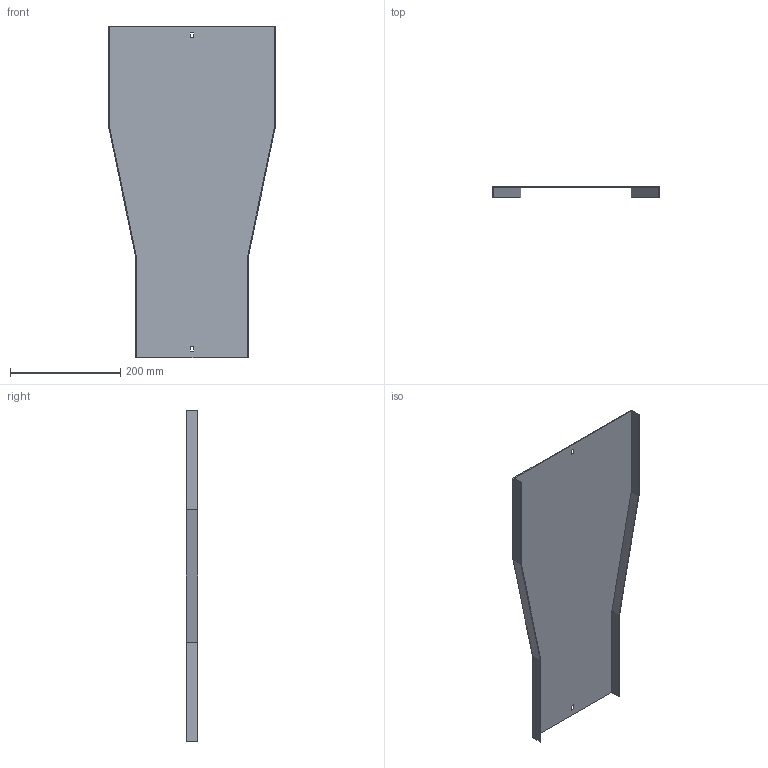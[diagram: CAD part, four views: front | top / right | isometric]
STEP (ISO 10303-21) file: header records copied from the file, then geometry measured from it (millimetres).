
FILE_DESCRIPTION (( 'STEP AP214' ), '1' );
FILE_NAME ('B2X20N2R300X.step', '2025-09-02T15:43:54', ( '' ), ( '' ), 'SwSTEP 2.0', 'SolidWorks 2023', '' );
FILE_SCHEMA (( 'AUTOMOTIVE_DESIGN' ));
Length unit declared in the file: millimetre
Products named in the file (1): B2X20N2R300X
Bounding box: 303 x 20 x 600 mm (x, y, z)
Volume: 261110.5 mm3; surface area: 350925.8 mm2
Topology: 1 solids, 1 shells, 26 faces, 72 edges, 48 vertices
Faces by surface type: plane 26
Entity records: 847 total; most frequent: CARTESIAN_POINT 147, ORIENTED_EDGE 144, DIRECTION 126, LINE 72, EDGE_CURVE 72, VECTOR 72, VERTEX_POINT 48, EDGE_LOOP 30
